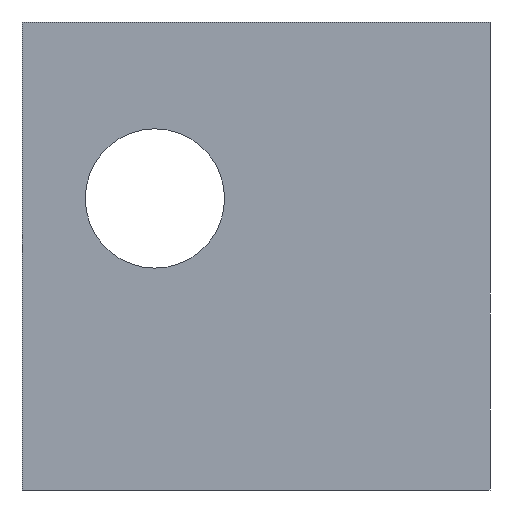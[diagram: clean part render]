
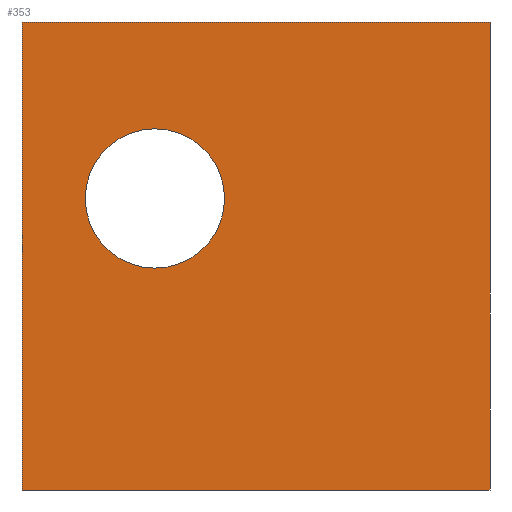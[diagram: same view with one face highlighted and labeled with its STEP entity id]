
A CAD part, front view. The second image highlights one B-rep face of the part: STEP entity #353.
In plain terms, the highlighted planar face has unit normal (0, -1, 0).
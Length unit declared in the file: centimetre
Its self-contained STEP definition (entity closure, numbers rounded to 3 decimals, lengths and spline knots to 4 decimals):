
#3 = ORIENTED_EDGE ( 'NONE', *, *, #463, .T. ) ;
#21 = VECTOR ( 'NONE', #232, 100. ) ;
#23 = VERTEX_POINT ( 'NONE', #122 ) ;
#37 = EDGE_CURVE ( 'NONE', #663, #398, #173, .T. ) ;
#40 = CARTESIAN_POINT ( 'NONE',  ( 0., 0., 0. ) ) ;
#50 = CARTESIAN_POINT ( 'NONE',  ( 283.9805, 0., 622.9333 ) ) ;
#85 = VERTEX_POINT ( 'NONE', #236 ) ;
#96 = VECTOR ( 'NONE', #284, 100. ) ;
#99 = LINE ( 'NONE', #40, #96 ) ;
#110 = ORIENTED_EDGE ( 'NONE', *, *, #623, .T. ) ;
#122 = CARTESIAN_POINT ( 'NONE',  ( 0., 0., 0. ) ) ;
#173 = LINE ( 'NONE', #531, #374 ) ;
#176 = CARTESIAN_POINT ( 'NONE',  ( 0., 0., 1000. ) ) ;
#191 = CARTESIAN_POINT ( 'NONE',  ( 0., 0., 1000. ) ) ;
#223 = VECTOR ( 'NONE', #437, 100. ) ;
#226 = CARTESIAN_POINT ( 'NONE',  ( 1000., 0., 0. ) ) ;
#232 = DIRECTION ( 'NONE',  ( 0., 0., -1. ) ) ;
#236 = CARTESIAN_POINT ( 'NONE',  ( 0., 0., 1000. ) ) ;
#281 = ORIENTED_EDGE ( 'NONE', *, *, #299, .F. ) ;
#284 = DIRECTION ( 'NONE',  ( 1., 0., 0. ) ) ;
#286 = DIRECTION ( 'NONE',  ( 0., 1., 0. ) ) ;
#299 = EDGE_CURVE ( 'NONE', #85, #663, #382, .T. ) ;
#312 = CARTESIAN_POINT ( 'NONE',  ( 0., 0., 1000. ) ) ;
#322 = CARTESIAN_POINT ( 'NONE',  ( 283.9805, 0., 474.1118 ) ) ;
#326 = EDGE_LOOP ( 'NONE', ( #110, #381, #281, #3 ) ) ;
#353 = ADVANCED_FACE ( 'NONE', ( #716, #422 ), #603, .F. ) ;
#362 = CIRCLE ( 'NONE', #570, 148.8215 ) ;
#374 = VECTOR ( 'NONE', #652, 100. ) ;
#381 = ORIENTED_EDGE ( 'NONE', *, *, #37, .F. ) ;
#382 = LINE ( 'NONE', #191, #223 ) ;
#393 = VERTEX_POINT ( 'NONE', #523 ) ;
#398 = VERTEX_POINT ( 'NONE', #226 ) ;
#403 = AXIS2_PLACEMENT_3D ( 'NONE', #522, #286, #409 ) ;
#407 = DIRECTION ( 'NONE',  ( 0., 1., 0. ) ) ;
#408 = EDGE_CURVE ( 'NONE', #393, #719, #362, .T. ) ;
#409 = DIRECTION ( 'NONE',  ( 0., 0., 1. ) ) ;
#422 = FACE_OUTER_BOUND ( 'NONE', #326, .T. ) ;
#437 = DIRECTION ( 'NONE',  ( 1., 0., 0. ) ) ;
#463 = EDGE_CURVE ( 'NONE', #85, #23, #711, .T. ) ;
#504 = ORIENTED_EDGE ( 'NONE', *, *, #536, .T. ) ;
#522 = CARTESIAN_POINT ( 'NONE',  ( 283.9805, 0., 622.9333 ) ) ;
#523 = CARTESIAN_POINT ( 'NONE',  ( 283.9805, 0., 771.7547 ) ) ;
#531 = CARTESIAN_POINT ( 'NONE',  ( 1000., 0., 1000. ) ) ;
#536 = EDGE_CURVE ( 'NONE', #719, #393, #695, .T. ) ;
#538 = ORIENTED_EDGE ( 'NONE', *, *, #408, .T. ) ;
#570 = AXIS2_PLACEMENT_3D ( 'NONE', #50, #407, #761 ) ;
#581 = DIRECTION ( 'NONE',  ( 0., 1., 0. ) ) ;
#603 = PLANE ( 'NONE',  #703 ) ;
#623 = EDGE_CURVE ( 'NONE', #23, #398, #99, .T. ) ;
#652 = DIRECTION ( 'NONE',  ( 0., 0., -1. ) ) ;
#663 = VERTEX_POINT ( 'NONE', #733 ) ;
#695 = CIRCLE ( 'NONE', #403, 148.8215 ) ;
#703 = AXIS2_PLACEMENT_3D ( 'NONE', #312, #581, #707 ) ;
#707 = DIRECTION ( 'NONE',  ( 0., 0., 1. ) ) ;
#711 = LINE ( 'NONE', #176, #21 ) ;
#716 = FACE_BOUND ( 'NONE', #773, .T. ) ;
#719 = VERTEX_POINT ( 'NONE', #322 ) ;
#733 = CARTESIAN_POINT ( 'NONE',  ( 1000., 0., 1000. ) ) ;
#761 = DIRECTION ( 'NONE',  ( 0., 0., 1. ) ) ;
#773 = EDGE_LOOP ( 'NONE', ( #538, #504 ) ) ;
